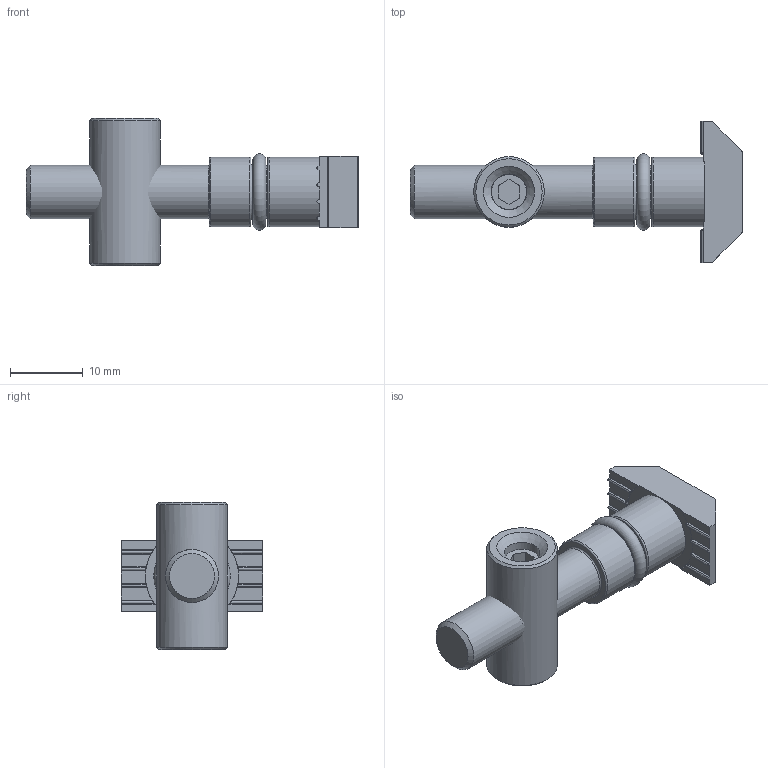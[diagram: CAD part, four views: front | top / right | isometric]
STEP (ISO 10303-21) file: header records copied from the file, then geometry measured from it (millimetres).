
FILE_DESCRIPTION(/* description */ ('STEP AP214'),/* implementation_level */ '2;1');
FILE_NAME(/* name */ '099B10101090',/* time_stamp */ '2025-04-03T10:41:00+02:00',/* author */ ('License CC BY-ND 4.0'),/* organization */ ('CADENAS'),/* preprocessor_version */ 'ST-DEVELOPER v19.3',/* originating_system */ 'PARTsolutions',/* authorisation */ ' ');
FILE_SCHEMA (('AUTOMOTIVE_DESIGN {1 0 10303 214 3 1 1}'));
Length unit declared in the file: millimetre
Products named in the file (6): 099B10101090; 099B10101090d; 099B10101090sc; 099B10101090din; 099B10101090c; 099B10101090b1
Assembly tree (5 placements, depth 2):
  099B10101090
    099B10101090d
    099B10101090sc
    099B10101090din
    099B10101090c
    099B10101090b1
Bounding box: 45.6 x 19.4 x 20.2 mm (x, y, z)
Volume: 4066.2 mm3; surface area: 2971.6 mm2
Topology: 4 solids, 4 shells, 85 faces, 211 edges, 138 vertices
Faces by surface type: plane 49, cylinder 22, cone 7, torus 7
Full cylindrical faces by diameter (mm): 4.917 x1, 6 x1, 7 x1, 7.3 x2, 9.6 x2, 9.7 x1
Entity records: 2624 total; most frequent: CARTESIAN_POINT 514, DIRECTION 424, ORIENTED_EDGE 370, EDGE_CURVE 185, AXIS2_PLACEMENT_3D 160, VERTEX_POINT 135, FACE_BOUND 116, EDGE_LOOP 114
